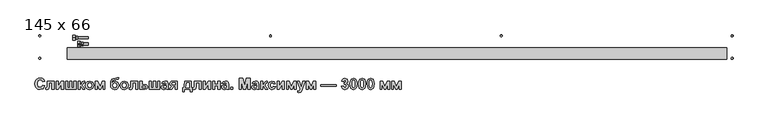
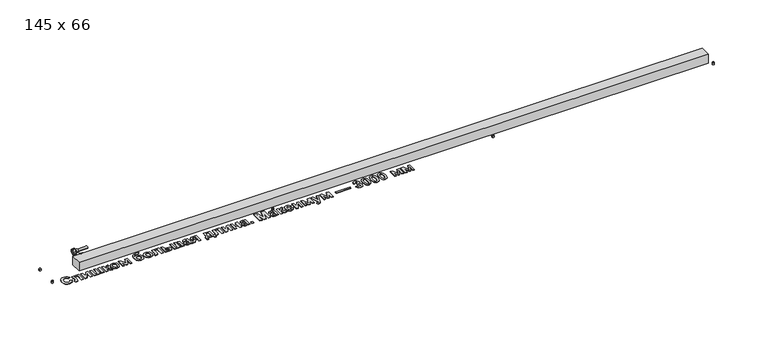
"""IFC4 building model written with IfcOpenShell, lengths in millimetres: proxy geometry, Mohlenhof_Внутрипольный конвектор_QSKM : 145 x 66."""

import ifcopenshell
import ifcopenshell.guid

model = None  # the IFC model being written
_history = None  # IfcOwnerHistory: only IFC2X3 demands one
_inside = {}  # id of a spatial element -> (the spatial element, [elements in it])
_under = {}  # id of a project, library or spatial element -> (it, [spatial elements below it])
_declared = {}  # id of a project -> (the project, [libraries it declares])
_typed = {}  # id of a type object -> (the type object, [elements of that type])
_made_of = {}  # id of a material, layer set ... -> (it, [elements and type objects made of it])


def new_model(schema):
    """Start an empty IFC model of exactly this schema.

    Asked for "IFC4X3", IfcOpenShell would pick the latest addendum, in which some entities
    have other attributes; the version numbers below select the first issue.
    IFC2X3 requires an IfcOwnerHistory on every rooted entity: one is made here for all.
    """
    global model, _history
    if schema == "IFC4X3":
        model = ifcopenshell.file(schema_version=(4, 3, 0, 0))
    else:
        model = ifcopenshell.file(schema=schema)
    _inside.clear()
    _under.clear()
    _declared.clear()
    _typed.clear()
    _made_of.clear()
    _history = None
    if model.schema == "IFC2X3":
        org = make("IfcOrganization", Name="unknown")
        user = make(
            "IfcPersonAndOrganization",
            ThePerson=make("IfcPerson", FamilyName="unknown"),
            TheOrganization=org,
        )
        app = make(
            "IfcApplication",
            ApplicationDeveloper=org,
            Version="unknown",
            ApplicationFullName="unknown",
            ApplicationIdentifier="unknown",
        )
        _history = make(
            "IfcOwnerHistory",
            OwningUser=user,
            OwningApplication=app,
            ChangeAction="ADDED",
            CreationDate=0,
        )
    return model


def make(cls, **values):
    """One entity of the class cls with the attributes given. An attribute that is None is left unset."""
    return model.create_entity(
        cls, **{name: value for name, value in values.items() if value is not None}
    )


def rooted(cls, **values):
    """An entity with a GlobalId (a new one), such as an element, a storey or a relation."""
    return make(cls, GlobalId=ifcopenshell.guid.new(), OwnerHistory=_history, **values)


def si_unit(unit_type, name, prefix=None):
    """IfcSIUnit, for example si_unit("LENGTHUNIT", "METRE", prefix="MILLI")."""
    return make("IfcSIUnit", UnitType=unit_type, Prefix=prefix, Name=name)


def assignment(units):
    """IfcUnitAssignment: the units of a project."""
    return None if units is None else make("IfcUnitAssignment", Units=units)


def point(xyz):
    """IfcCartesianPoint."""
    return None if xyz is None else make("IfcCartesianPoint", Coordinates=xyz)


def direction(xyz):
    """IfcDirection."""
    return None if xyz is None else make("IfcDirection", DirectionRatios=xyz)


def frame(location, z_axis=None, x_axis=None):
    """IfcAxis2Placement3D, a coordinate frame: its origin and axes. An axis left out is left unset."""
    return make(
        "IfcAxis2Placement3D",
        Location=point(location),
        Axis=direction(z_axis),
        RefDirection=direction(x_axis),
    )


def frame_2d(location, x_axis=None):
    """IfcAxis2Placement2D, a coordinate frame in the plane: its origin and x axis."""
    return make(
        "IfcAxis2Placement2D", Location=point(location), RefDirection=direction(x_axis)
    )


def origin():
    """The frame at (0, 0, 0) with its axes left unset."""
    return frame((0.0, 0.0, 0.0))


def origin_with_axes():
    """The frame at (0, 0, 0) with the z axis (0, 0, 1) and the x axis (1, 0, 0) written out."""
    return frame((0.0, 0.0, 0.0), z_axis=(0.0, 0.0, 1.0), x_axis=(1.0, 0.0, 0.0))


def place(relative_to, where):
    """IfcLocalPlacement: puts the frame where relative to a parent placement (None: the world)."""
    return make(
        "IfcLocalPlacement", PlacementRelTo=relative_to, RelativePlacement=where
    )


def context(
    kind, dimensions, precision=None, world=None, true_north=None, identifier=None
):
    """IfcGeometricRepresentationContext, for example the 3D "Model" context."""
    return make(
        "IfcGeometricRepresentationContext",
        ContextIdentifier=identifier,
        ContextType=kind,
        CoordinateSpaceDimension=dimensions,
        Precision=precision,
        WorldCoordinateSystem=world,
        TrueNorth=true_north,
    )


def project(units=None, contexts=None):
    """IfcProject with its units and contexts."""
    return rooted(
        "IfcProject",
        Name="project",
        RepresentationContexts=contexts,
        UnitsInContext=assignment(units),
    )


def spatial(cls, under=None, at=None, **own):
    """A site, building, storey or space (cls), placed at a placement, below another one or the project."""
    s = rooted(cls, ObjectPlacement=at, **own)
    if under is not None:
        _under.setdefault(under.id(), (under, []))[1].append(s)
    return s


def polyline(points):
    """IfcPolyline through the points."""
    return make("IfcPolyline", Points=[point(p) for p in points])


def circle_curve(where, radius):
    """IfcCircle in the frame where."""
    return make("IfcCircle", Position=where, Radius=radius)


def trimmed(basis, trim1, trim2, sense, master):
    """IfcTrimmedCurve: the piece of a basis curve between two trims."""
    return make(
        "IfcTrimmedCurve",
        BasisCurve=basis,
        Trim1=trim1,
        Trim2=trim2,
        SenseAgreement=sense,
        MasterRepresentation=master,
    )


def segment(curve, same_sense, transition):
    """IfcCompositeCurveSegment."""
    return make(
        "IfcCompositeCurveSegment",
        Transition=transition,
        SameSense=same_sense,
        ParentCurve=curve,
    )


def composite_curve(segments, self_intersect=None):
    """IfcCompositeCurve: segments joined end to end."""
    return make("IfcCompositeCurve", Segments=segments, SelfIntersect=self_intersect)


def outline(outer, holes=None, kind="AREA"):
    """IfcArbitraryClosedProfileDef: a profile drawn as a closed curve; with holes, ...WithVoids."""
    if holes is None:
        return make("IfcArbitraryClosedProfileDef", ProfileType=kind, OuterCurve=outer)
    return make(
        "IfcArbitraryProfileDefWithVoids",
        ProfileType=kind,
        OuterCurve=outer,
        InnerCurves=holes,
    )


def extrude(swept, where, along, depth):
    """IfcExtrudedAreaSolid: the profile swept, set in the frame where, extruded along a direction by depth."""
    return make(
        "IfcExtrudedAreaSolid",
        SweptArea=swept,
        Position=where,
        ExtrudedDirection=direction(along),
        Depth=depth,
    )


def shape(context_of_items, identifier, shape_type, items):
    """IfcShapeRepresentation: the items that make up one representation, for example the "Body"."""
    return make(
        "IfcShapeRepresentation",
        ContextOfItems=context_of_items,
        RepresentationIdentifier=identifier,
        RepresentationType=shape_type,
        Items=items,
    )


def source(mapping_origin, context_of_items, identifier, shape_type, items):
    """IfcRepresentationMap: a shape defined once, which mapped items show again and again."""
    return make(
        "IfcRepresentationMap",
        MappingOrigin=mapping_origin,
        MappedRepresentation=shape(context_of_items, identifier, shape_type, items),
    )


def transform(
    local_origin,
    x_axis=None,
    y_axis=None,
    z_axis=None,
    scale=None,
    scale2=None,
    scale3=None,
    uniform=True,
):
    """IfcCartesianTransformationOperator3D, or its non-uniform kind. x_axis, y_axis, z_axis: its Axis1, 2, 3."""
    if uniform:
        return make(
            "IfcCartesianTransformationOperator3D",
            Axis1=direction(x_axis),
            Axis2=direction(y_axis),
            LocalOrigin=point(local_origin),
            Scale=scale,
            Axis3=direction(z_axis),
        )
    return make(
        "IfcCartesianTransformationOperator3DnonUniform",
        Axis1=direction(x_axis),
        Axis2=direction(y_axis),
        LocalOrigin=point(local_origin),
        Scale=scale,
        Axis3=direction(z_axis),
        Scale2=scale2,
        Scale3=scale3,
    )


def mapped(mapping_source, mapping_target):
    """IfcMappedItem: shows the shape of a source again, moved by a transform."""
    return make(
        "IfcMappedItem", MappingSource=mapping_source, MappingTarget=mapping_target
    )


def made_of(thing, what):
    """Note that an element or type object is made of a material, layer set ...; save() writes the relation."""
    if what is not None:
        _made_of.setdefault(what.id(), (what, []))[1].append(thing)
    return thing


def element(
    cls,
    number,
    at=None,
    inside=None,
    cuts=None,
    type_object=None,
    material=None,
    context=None,
    identifier="Body",
    shape_type=None,
    held_by="IfcProductDefinitionShape",
    body=None,
    shapes=None,
    **own,
):
    """One element of the class cls, such as IfcWall. Its Tag is "e" and its number.

    at: its placement. inside: the storey or other place that contains it. cuts: it is an
    opening in that element (IfcRelVoidsElement). A single representation is given by context,
    identifier, shape_type and body (its items); several are given by shapes. held_by: the class
    of the entity that holds the representations. save() writes the other relations.
    """
    e = rooted(cls, Tag="e%d" % number, ObjectPlacement=at, **own)
    if body is not None:
        shapes = [shape(context, identifier, shape_type, body)]
    if shapes is not None:
        e.Representation = make(held_by, Representations=shapes)
    if inside is not None:
        _inside.setdefault(inside.id(), (inside, []))[1].append(e)
    if cuts is not None:
        rooted(
            "IfcRelVoidsElement", RelatingBuildingElement=cuts, RelatedOpeningElement=e
        )
    if type_object is not None:
        _typed.setdefault(type_object.id(), (type_object, []))[1].append(e)
    return made_of(e, material)


def aggregate(whole, parts):
    """IfcRelAggregates: a whole, such as a stair, and the parts it consists of."""
    return rooted("IfcRelAggregates", RelatingObject=whole, RelatedObjects=parts)


def save(model, path):
    """Write the relations noted so far, then the file.

    IfcRelAggregates (storeys below a building ...), IfcRelContainedInSpatialStructure (elements
    in a storey), IfcRelDefinesByType, IfcRelAssociatesMaterial and IfcRelDeclares: one each for
    every whole, place, type object, material and project.
    """
    for whole, parts in _under.values():
        aggregate(whole, parts)
    for where, things in _inside.values():
        rooted(
            "IfcRelContainedInSpatialStructure",
            RelatedElements=things,
            RelatingStructure=where,
        )
    for kind, things in _typed.values():
        rooted("IfcRelDefinesByType", RelatedObjects=things, RelatingType=kind)
    for what, things in _made_of.values():
        rooted("IfcRelAssociatesMaterial", RelatedObjects=things, RelatingMaterial=what)
    for by, libraries in _declared.values():
        rooted("IfcRelDeclares", RelatingContext=by, RelatedDefinitions=libraries)
    model.write(path)


def plane_surface(at):
    """IfcPlane: the flat surface through the origin of the frame at, square to its z axis."""
    return make("IfcPlane", Position=at)


def cylinder_surface(at, radius):
    """IfcCylindricalSurface: all points at the distance radius from the z axis of the frame at."""
    return make("IfcCylindricalSurface", Position=at, Radius=radius)


def revolved_surface(curve, axis_point, axis_direction):
    """IfcSurfaceOfRevolution: the curve turned about the line through axis_point along axis_direction."""
    return make(
        "IfcSurfaceOfRevolution",
        SweptCurve=make("IfcArbitraryOpenProfileDef", ProfileType="CURVE", Curve=curve),
        AxisPosition=make("IfcAxis1Placement", Location=point(axis_point), Axis=direction(axis_direction)),
    )


def advanced_brep(points, edges, surfaces, faces):
    """IfcAdvancedBrep: a solid bounded by faces that lie on surfaces and meet in shared edges.

    An edge is (start, end): straight between two places in points (the first is 0);
    or (start, end, curve); or (start, end, curve, False) where it runs against its curve.
    A face is (place in surfaces, loops), or (place, loops, False) where it looks against
    its surface's normal. A loop lists edges by number (the first is 1), with a minus sign
    where the edge is run from its end to its start. The first loop is the outer one.
    """
    corners = [point(p) for p in points]
    vertices = [make("IfcVertexPoint", VertexGeometry=c) for c in corners]
    made = []
    for start, end, *more in edges:
        made.append(
            make(
                "IfcEdgeCurve",
                EdgeStart=vertices[start],
                EdgeEnd=vertices[end],
                EdgeGeometry=more[0] if more else make("IfcPolyline", Points=[corners[start], corners[end]]),
                SameSense=more[1] if len(more) > 1 else True,
            )
        )
    hull = []
    for where, loops, *sense in faces:
        bounds = []
        for j, loop in enumerate(loops):
            ring = [make("IfcOrientedEdge", EdgeElement=made[abs(k) - 1], Orientation=k > 0) for k in loop]
            bounds.append(
                make(
                    "IfcFaceOuterBound" if j == 0 else "IfcFaceBound",
                    Bound=make("IfcEdgeLoop", EdgeList=ring),
                    Orientation=True,
                )
            )
        hull.append(make("IfcAdvancedFace", Bounds=bounds, FaceSurface=surfaces[where], SameSense=sense[0] if sense else True))
    return make("IfcAdvancedBrep", Outer=make("IfcClosedShell", CfsFaces=hull))


def proxy_145_x_66_dd4702fc(model_context):
    return source(origin(), model_context, "Body", "SolidModel", [
        extrude(outline(composite_curve([segment(trimmed(circle_curve(frame_2d((-525.0, -223.5)), 4.5), [point((-529.5, -223.5))], [point((-520.5, -223.5))], False, "CARTESIAN"), True, "CONTINUOUS"), segment(trimmed(circle_curve(frame_2d((-525.0, -223.5)), 4.5), [point((-520.5, -223.5))], [point((-529.5, -223.5))], False, "CARTESIAN"), True, "CONTINUOUS")], self_intersect=False)), frame((0.0, 0.0, -79.0), z_axis=(0.0, 0.0, 1.0), x_axis=(1.0, 0.0, 0.0)), (0.0, 0.0, 1.0), 7.0),
        extrude(outline(composite_curve([segment(trimmed(circle_curve(frame_2d((-525.0, -223.5)), 4.0), [point((-529.0, -223.5))], [point((-521.0, -223.5))], False, "CARTESIAN"), True, "CONTINUOUS"), segment(trimmed(circle_curve(frame_2d((-525.0, -223.5)), 4.0), [point((-521.0, -223.5))], [point((-529.0, -223.5))], False, "CARTESIAN"), True, "CONTINUOUS")], self_intersect=False)), frame((0.0, 0.0, -72.0), z_axis=(0.0, 0.0, 1.0), x_axis=(1.0, 0.0, 0.0)), (0.0, 0.0, 1.0), 1.5),
        extrude(outline(composite_curve([segment(trimmed(circle_curve(frame_2d((525.0, -223.5)), 4.5), [point((520.5, -223.5))], [point((529.5, -223.5))], False, "CARTESIAN"), True, "CONTINUOUS"), segment(trimmed(circle_curve(frame_2d((525.0, -223.5)), 4.5), [point((529.5, -223.5))], [point((520.5, -223.5))], False, "CARTESIAN"), True, "CONTINUOUS")], self_intersect=False)), frame((0.0, 0.0, -79.0), z_axis=(0.0, 0.0, 1.0), x_axis=(1.0, 0.0, 0.0)), (0.0, 0.0, 1.0), 7.0),
        extrude(outline(composite_curve([segment(trimmed(circle_curve(frame_2d((525.0, -223.5)), 4.0), [point((521.0, -223.5))], [point((529.0, -223.5))], False, "CARTESIAN"), True, "CONTINUOUS"), segment(trimmed(circle_curve(frame_2d((525.0, -223.5)), 4.0), [point((529.0, -223.5))], [point((521.0, -223.5))], False, "CARTESIAN"), True, "CONTINUOUS")], self_intersect=False)), frame((0.0, 0.0, -72.0), z_axis=(0.0, 0.0, 1.0), x_axis=(1.0, 0.0, 0.0)), (0.0, 0.0, 1.0), 1.5),
        extrude(outline(composite_curve([segment(trimmed(circle_curve(frame_2d((-525.0, -121.5)), 4.5), [point((-529.5, -121.5))], [point((-520.5, -121.5))], False, "CARTESIAN"), True, "CONTINUOUS"), segment(trimmed(circle_curve(frame_2d((-525.0, -121.5)), 4.5), [point((-520.5, -121.5))], [point((-529.5, -121.5))], False, "CARTESIAN"), True, "CONTINUOUS")], self_intersect=False)), frame((0.0, 0.0, -79.0), z_axis=(0.0, 0.0, 1.0), x_axis=(1.0, 0.0, 0.0)), (0.0, 0.0, 1.0), 7.0),
        extrude(outline(composite_curve([segment(trimmed(circle_curve(frame_2d((-525.0, -121.5)), 4.0), [point((-529.0, -121.5))], [point((-521.0, -121.5))], False, "CARTESIAN"), True, "CONTINUOUS"), segment(trimmed(circle_curve(frame_2d((-525.0, -121.5)), 4.0), [point((-521.0, -121.5))], [point((-529.0, -121.5))], False, "CARTESIAN"), True, "CONTINUOUS")], self_intersect=False)), frame((0.0, 0.0, -72.0), z_axis=(0.0, 0.0, 1.0), x_axis=(1.0, 0.0, 0.0)), (0.0, 0.0, 1.0), 1.5),
        extrude(outline(composite_curve([segment(trimmed(circle_curve(frame_2d((525.0, -121.5)), 4.5), [point((520.5, -121.5))], [point((529.5, -121.5))], False, "CARTESIAN"), True, "CONTINUOUS"), segment(trimmed(circle_curve(frame_2d((525.0, -121.5)), 4.5), [point((529.5, -121.5))], [point((520.5, -121.5))], False, "CARTESIAN"), True, "CONTINUOUS")], self_intersect=False)), frame((0.0, 0.0, -79.0), z_axis=(0.0, 0.0, 1.0), x_axis=(1.0, 0.0, 0.0)), (0.0, 0.0, 1.0), 7.0),
        extrude(outline(composite_curve([segment(trimmed(circle_curve(frame_2d((525.0, -121.5)), 4.0), [point((521.0, -121.5))], [point((529.0, -121.5))], False, "CARTESIAN"), True, "CONTINUOUS"), segment(trimmed(circle_curve(frame_2d((525.0, -121.5)), 4.0), [point((529.0, -121.5))], [point((521.0, -121.5))], False, "CARTESIAN"), True, "CONTINUOUS")], self_intersect=False)), frame((0.0, 0.0, -72.0), z_axis=(0.0, 0.0, 1.0), x_axis=(1.0, 0.0, 0.0)), (0.0, 0.0, 1.0), 1.5),
        extrude(outline(polyline([(-1561.9427049, -345.5664876), (-1552.2259487, -348.8054063), (-1559.8804246, -361.0082857), (-1573.4687009, -365.0), (-1582.7457991, -363.2951395), (-1590.2073317, -358.1805578), (-1595.1226439, -350.1085651), (-1596.7610813, -339.5314711), (-1595.1084103, -328.416666), (-1590.1503975, -320.0979587), (-1582.4975031, -314.9074649), (-1572.7601874, -313.1773003), (-1564.2327217, -314.6038163), (-1557.4765396, -318.8833642), (-1552.2259487, -328.5621643), (-1561.9427049, -330.1816237), (-1565.9723753, -324.2541493), (-1573.4307448, -322.0843268), (-1583.2676952, -326.025433), (-1587.0443251, -338.7850015), (-1583.3815635, -352.1202372), (-1573.8482617, -356.0929735), (-1566.4151962, -353.5562422), (-1561.9427049, -345.5664876)])), origin_with_axes(), (0.0, 0.0, 1.0), 2.0),
        extrude(outline(polyline([(-1541.6994629, -327.7524346), (-1509.3102756, -327.7524346), (-1509.3102756, -365.0), (-1519.0270317, -365.0), (-1519.0270317, -335.0400017), (-1531.9827067, -335.0400017), (-1531.9827067, -352.2720616), (-1533.4123856, -361.4953887), (-1536.5753922, -364.981022), (-1542.1549358, -365.8097297), (-1548.1773003, -365.2150844), (-1548.1773003, -358.3450342), (-1544.4196485, -358.5221625), (-1542.1233057, -357.1810478), (-1541.6994629, -349.7163522), (-1541.6994629, -327.7524346)])), origin_with_axes(), (0.0, 0.0, 1.0), 2.0),
        extrude(outline(polyline([(-1499.5935194, -327.7524346), (-1489.8767632, -327.7524346), (-1489.8767632, -350.6652542), (-1476.1113586, -327.7524346), (-1466.3946024, -327.7524346), (-1466.3946024, -365.0), (-1476.1113586, -365.0), (-1476.1113586, -342.0745284), (-1489.8767632, -365.0), (-1499.5935194, -365.0), (-1499.5935194, -327.7524346)])), origin_with_axes(), (0.0, 0.0, 1.0), 2.0),
        extrude(outline(polyline([(-1456.6778462, -327.7524346), (-1446.96109, -327.7524346), (-1446.96109, -357.7124329), (-1438.0540635, -357.7124329), (-1438.0540635, -327.7524346), (-1428.3373073, -327.7524346), (-1428.3373073, -357.7124329), (-1419.4302808, -357.7124329), (-1419.4302808, -327.7524346), (-1409.7135246, -327.7524346), (-1409.7135246, -365.0), (-1456.6778462, -365.0), (-1456.6778462, -327.7524346)])), origin_with_axes(), (0.0, 0.0, 1.0), 2.0),
        extrude(outline(polyline([(-1399.9967684, -327.7524346), (-1390.2800122, -327.7524346), (-1390.2800122, -343.1372986), (-1386.8829432, -341.6380335), (-1384.4727322, -336.3052044), (-1380.4240838, -329.2833298), (-1374.6547598, -327.7524346), (-1370.8464999, -327.9169109), (-1370.8085438, -334.2302721), (-1375.6669219, -334.9893936), (-1377.9695907, -339.6959474), (-1382.7900127, -346.211741), (-1375.0216685, -354.1951695), (-1369.2270405, -365.0), (-1380.1457392, -365.0), (-1384.7510767, -354.5747303), (-1387.2055698, -350.5134299), (-1390.2800122, -349.615136), (-1390.2800122, -365.0), (-1399.9967684, -365.0), (-1399.9967684, -327.7524346)])), origin_with_axes(), (0.0, 0.0, 1.0), 2.0),
        extrude(outline(polyline([(-1366.7978514, -345.8448322), (-1364.4002925, -336.3621385), (-1357.6124804, -329.3592419), (-1347.80716, -326.9427049), (-1334.0860375, -332.4210323), (-1328.7405564, -346.2750011), (-1334.1429716, -360.2618162), (-1347.7312478, -365.8097297), (-1357.4037219, -363.5007349), (-1364.4002925, -356.7255748), (-1366.7978514, -345.8448322)]), holes=[polyline([(-1357.0810952, -346.3762173), (-1354.3925397, -355.390786), (-1347.7565519, -358.5221625), (-1341.1332161, -355.390786), (-1338.4573126, -346.3003051), (-1341.1332161, -337.3616486), (-1347.7565519, -334.2302721), (-1354.3925397, -337.3616486), (-1357.0810952, -346.3762173)])]), origin_with_axes(), (0.0, 0.0, 1.0), 2.0),
        extrude(outline(polyline([(-1321.4529892, -327.7524346), (-1310.3318581, -327.7524346), (-1299.9951526, -353.7017405), (-1289.5572309, -327.7524346), (-1278.537316, -327.7524346), (-1278.537316, -365.0), (-1286.6346129, -365.0), (-1286.6346129, -340.4803731), (-1296.5031934, -365.0), (-1303.5883281, -365.0), (-1313.3556924, -340.4803731), (-1313.3556924, -365.0), (-1321.4529892, -365.0), (-1321.4529892, -327.7524346)])), origin_with_axes(), (0.0, 0.0, 1.0), 2.0),
        extrude(outline(polyline([(-1221.8562383, -312.3675706), (-1215.3784008, -312.3675706), (-1217.7822858, -319.0351885), (-1228.0304271, -321.2999012), (-1229.9914912, -321.2745971), (-1239.1642102, -322.2741072), (-1244.1364566, -326.1456273), (-1246.1481287, -335.4195625), (-1240.3281967, -329.6628906), (-1231.838687, -327.7524346), (-1219.0095324, -333.4711505), (-1213.7589414, -346.70517), (-1219.2182908, -360.179578), (-1225.5142554, -364.4021918), (-1233.4834504, -365.8097297), (-1244.1111525, -362.9820018), (-1250.6585761, -355.2452877), (-1252.6259662, -338.9874339), (-1251.3576006, -327.5278611), (-1247.5525037, -319.8196141), (-1240.5875632, -315.445176), (-1229.8396669, -313.98703), (-1224.7155962, -313.98703), (-1221.8562383, -312.3675706)]), holes=[polyline([(-1242.90921, -346.7684301), (-1240.1384163, -355.359156), (-1233.3442781, -358.5221625), (-1226.2464914, -355.2452877), (-1223.4756976, -346.7937342), (-1226.2844475, -338.2789205), (-1233.2304099, -335.0400017), (-1240.0814821, -338.2219864), (-1242.90921, -346.7684301)])]), origin_with_axes(), (0.0, 0.0, 1.0), 2.0),
        extrude(outline(polyline([(-1208.9005633, -345.8448322), (-1206.5030044, -336.3621385), (-1199.7151923, -329.3592419), (-1189.9098719, -326.9427049), (-1176.1887494, -332.4210323), (-1170.8432683, -346.2750011), (-1176.2456835, -360.2618162), (-1189.8339597, -365.8097297), (-1199.5064338, -363.5007349), (-1206.5030044, -356.7255748), (-1208.9005633, -345.8448322)]), holes=[polyline([(-1199.1838072, -346.3762173), (-1196.4952516, -355.390786), (-1189.8592638, -358.5221625), (-1183.235928, -355.390786), (-1180.5600245, -346.3003051), (-1183.235928, -337.3616486), (-1189.8592638, -334.2302721), (-1196.4952516, -337.3616486), (-1199.1838072, -346.3762173)])]), origin_with_axes(), (0.0, 0.0, 1.0), 2.0),
        extrude(outline(polyline([(-1161.1265121, -327.7524346), (-1128.7373248, -327.7524346), (-1128.7373248, -365.0), (-1138.454081, -365.0), (-1138.454081, -335.0400017), (-1151.4097559, -335.0400017), (-1151.4097559, -352.2720616), (-1152.8394349, -361.4953887), (-1156.0024414, -364.981022), (-1161.581985, -365.8097297), (-1167.6043495, -365.2150844), (-1167.6043495, -358.3450342), (-1163.8466977, -358.5221625), (-1161.550355, -357.1810478), (-1161.1265121, -349.7163522), (-1161.1265121, -327.7524346)])), origin_with_axes(), (0.0, 0.0, 1.0), 2.0),
        extrude(outline(polyline([(-1119.0205686, -327.7524346), (-1109.3038124, -327.7524346), (-1109.3038124, -343.1372986), (-1099.48584, -343.1372986), (-1090.6041175, -343.9849843), (-1085.4484168, -347.6287679), (-1083.3924626, -354.1192574), (-1087.0615502, -362.2734883), (-1098.056161, -365.0), (-1119.0205686, -365.0), (-1119.0205686, -327.7524346)]), holes=[polyline([(-1109.3038124, -358.5221625), (-1099.953965, -358.5221625), (-1094.3427913, -357.2000258), (-1093.1092188, -354.0686493), (-1095.2347592, -350.570364), (-1102.7753668, -349.615136), (-1109.3038124, -349.615136), (-1109.3038124, -358.5221625)])]), origin_with_axes(), (0.0, 0.0, 1.0), 2.0),
        extrude(outline(polyline([(-1076.1048954, -327.7524346), (-1066.3881392, -327.7524346), (-1066.3881392, -357.7124329), (-1057.4811127, -357.7124329), (-1057.4811127, -327.7524346), (-1047.7643565, -327.7524346), (-1047.7643565, -357.7124329), (-1038.85733, -357.7124329), (-1038.85733, -327.7524346), (-1029.1405738, -327.7524346), (-1029.1405738, -365.0), (-1076.1048954, -365.0), (-1076.1048954, -327.7524346)])), origin_with_axes(), (0.0, 0.0, 1.0), 2.0),
        extrude(outline(polyline([(-1011.3265208, -339.0886502), (-1020.2335473, -337.4691908), (-1015.3435392, -329.5237183), (-1005.0384638, -326.9427049), (-995.7898325, -328.5052302), (-991.5134476, -332.4653144), (-990.2735491, -341.2774507), (-990.2735491, -352.7654906), (-989.761142, -360.0024496), (-987.84436, -365.0), (-997.5611162, -365.0), (-998.4720621, -361.9129056), (-1004.0136496, -364.525549), (-1009.9221459, -365.8097297), (-1018.6583701, -362.6910052), (-1021.8530067, -354.8151188), (-1020.4296537, -349.1976192), (-1016.4379394, -345.4146633), (-1009.0365041, -343.1246465), (-999.9903053, -340.7081095), (-1001.1985738, -335.4828227), (-1005.7469772, -334.2302721), (-1009.2768926, -335.3056943), (-1011.3265208, -339.0886502)]), holes=[polyline([(-999.9903053, -347.9956767), (-1005.4686326, -349.3431175), (-1010.3776188, -350.8803387), (-1012.1362505, -353.9800851), (-1010.7255496, -357.1747217), (-1007.1387001, -358.5221625), (-1002.4954065, -356.9533113), (-1000.344562, -354.0433452), (-999.9903053, -349.7543083), (-999.9903053, -347.9956767)])]), origin_with_axes(), (0.0, 0.0, 1.0), 2.0),
        extrude(outline(polyline([(-948.9773353, -327.7524346), (-948.9773353, -365.0), (-958.6940915, -365.0), (-958.6940915, -350.4248657), (-964.248331, -351.2029653), (-967.5378578, -354.4861662), (-974.5850365, -365.0), (-986.2249007, -365.0), (-979.152418, -354.8151188), (-973.876523, -349.6910482), (-980.4619027, -346.4331514), (-982.9859819, -338.7596975), (-981.2842844, -332.3451201), (-976.761185, -328.7203146), (-968.3602395, -327.7524346), (-948.9773353, -327.7524346)]), holes=[polyline([(-958.6940915, -334.2302721), (-965.9816586, -334.2302721), (-971.6371143, -335.3499764), (-973.2692257, -339.0759981), (-971.4220299, -342.8083459), (-965.3617093, -343.9470283), (-958.6940915, -343.9470283), (-958.6940915, -334.2302721)])]), origin_with_axes(), (0.0, 0.0, 1.0), 2.0),
        extrude(outline(polyline([(-889.0573388, -365.0), (-917.3978776, -365.0), (-917.3978776, -374.7167562), (-924.6854448, -374.7167562), (-924.6854448, -357.7124329), (-920.6367964, -357.7124329), (-916.7842544, -348.7105162), (-914.9686886, -327.7524346), (-885.81842, -327.7524346), (-885.81842, -357.7124329), (-881.7697716, -357.7124329), (-881.7697716, -374.7167562), (-889.0573388, -374.7167562), (-889.0573388, -365.0)]), holes=[polyline([(-895.5351762, -357.7124329), (-895.5351762, -335.0400017), (-906.8713918, -335.0400017), (-910.9200402, -357.7124329), (-895.5351762, -357.7124329)])]), origin_with_axes(), (0.0, 0.0, 1.0), 2.0),
        extrude(outline(polyline([(-872.8627451, -327.7524346), (-840.4735578, -327.7524346), (-840.4735578, -365.0), (-850.190314, -365.0), (-850.190314, -335.0400017), (-863.1459889, -335.0400017), (-863.1459889, -352.2720616), (-864.5756679, -361.4953887), (-867.7386745, -364.981022), (-873.3182181, -365.8097297), (-879.3405826, -365.2150844), (-879.3405826, -358.3450342), (-875.5829308, -358.5221625), (-873.286588, -357.1810478), (-872.8627451, -349.7163522), (-872.8627451, -327.7524346)])), origin_with_axes(), (0.0, 0.0, 1.0), 2.0),
        extrude(outline(polyline([(-830.7568016, -327.7524346), (-821.0400454, -327.7524346), (-821.0400454, -350.6652542), (-807.2746408, -327.7524346), (-797.5578846, -327.7524346), (-797.5578846, -365.0), (-807.2746408, -365.0), (-807.2746408, -342.0745284), (-821.0400454, -365.0), (-830.7568016, -365.0), (-830.7568016, -327.7524346)])), origin_with_axes(), (0.0, 0.0, 1.0), 2.0),
        extrude(outline(polyline([(-787.8411284, -327.7524346), (-778.1243723, -327.7524346), (-778.1243723, -341.5178392), (-764.3589677, -341.5178392), (-764.3589677, -327.7524346), (-754.6422115, -327.7524346), (-754.6422115, -365.0), (-764.3589677, -365.0), (-764.3589677, -348.8054063), (-778.1243723, -348.8054063), (-778.1243723, -365.0), (-787.8411284, -365.0), (-787.8411284, -327.7524346)])), origin_with_axes(), (0.0, 0.0, 1.0), 2.0),
        extrude(outline(polyline([(-736.8281584, -339.0886502), (-745.735185, -337.4691908), (-740.8451768, -329.5237183), (-730.5401014, -326.9427049), (-721.2914702, -328.5052302), (-717.0150853, -332.4653144), (-715.7751867, -341.2774507), (-715.7751867, -352.7654906), (-715.2627796, -360.0024496), (-713.3459977, -365.0), (-723.0627538, -365.0), (-723.9736997, -361.9129056), (-729.5152873, -364.525549), (-735.4237835, -365.8097297), (-744.1600077, -362.6910052), (-747.3546443, -354.8151188), (-745.9312914, -349.1976192), (-741.9395771, -345.4146633), (-734.5381417, -343.1246465), (-725.4919429, -340.7081095), (-726.7002114, -335.4828227), (-731.2486149, -334.2302721), (-734.7785302, -335.3056943), (-736.8281584, -339.0886502)]), holes=[polyline([(-725.4919429, -347.9956767), (-730.9702703, -349.3431175), (-735.8792565, -350.8803387), (-737.6378881, -353.9800851), (-736.2271872, -357.1747217), (-732.6403377, -358.5221625), (-727.9970441, -356.9533113), (-725.8461996, -354.0433452), (-725.4919429, -349.7543083), (-725.4919429, -347.9956767)])]), origin_with_axes(), (0.0, 0.0, 1.0), 2.0),
        extrude(outline(polyline([(-706.0584305, -365.0), (-706.0584305, -355.2832438), (-696.3416743, -355.2832438), (-696.3416743, -365.0), (-706.0584305, -365.0)])), origin_with_axes(), (0.0, 0.0, 1.0), 2.0),
        extrude(outline(polyline([(-667.1914058, -365.0), (-667.1914058, -313.98703), (-650.5413392, -313.98703), (-642.4946504, -348.7801023), (-634.4479617, -313.98703), (-617.7978951, -313.98703), (-617.7978951, -365.0), (-627.5146513, -365.0), (-627.9195162, -324.8424686), (-636.8012386, -365.0), (-648.1754102, -365.0), (-657.0697847, -324.8424686), (-657.4746496, -365.0), (-667.1914058, -365.0)])), origin_with_axes(), (0.0, 0.0, 1.0), 2.0),
        extrude(outline(polyline([(-599.9838421, -339.0886502), (-608.8908686, -337.4691908), (-604.0008605, -329.5237183), (-593.695785, -326.9427049), (-584.4471538, -328.5052302), (-580.1707689, -332.4653144), (-578.9308704, -341.2774507), (-578.9308704, -352.7654906), (-578.4184633, -360.0024496), (-576.5016813, -365.0), (-586.2184375, -365.0), (-587.1293834, -361.9129056), (-592.6709709, -364.525549), (-598.5794672, -365.8097297), (-607.3156913, -362.6910052), (-610.510328, -354.8151188), (-609.086975, -349.1976192), (-605.0952607, -345.4146633), (-597.6938253, -343.1246465), (-588.6476266, -340.7081095), (-589.8558951, -335.4828227), (-594.4042985, -334.2302721), (-597.9342138, -335.3056943), (-599.9838421, -339.0886502)]), holes=[polyline([(-588.6476266, -347.9956767), (-594.1259539, -349.3431175), (-599.0349401, -350.8803387), (-600.7935718, -353.9800851), (-599.3828709, -357.1747217), (-595.7960214, -358.5221625), (-591.1527278, -356.9533113), (-589.0018833, -354.0433452), (-588.6476266, -349.7543083), (-588.6476266, -347.9956767)])]), origin_with_axes(), (0.0, 0.0, 1.0), 2.0),
        extrude(outline(polyline([(-569.2141142, -327.7524346), (-559.497358, -327.7524346), (-559.497358, -343.1372986), (-556.1002889, -341.6380335), (-553.6900779, -336.3052044), (-549.6414295, -329.2833298), (-543.8721055, -327.7524346), (-540.0638456, -327.9169109), (-540.0258895, -334.2302721), (-544.8842676, -334.9893936), (-547.1869364, -339.6959474), (-552.0073584, -346.211741), (-544.2390143, -354.1951695), (-538.4443862, -365.0), (-549.3630849, -365.0), (-553.9684225, -354.5747303), (-556.4229156, -350.5134299), (-559.497358, -349.615136), (-559.497358, -365.0), (-569.2141142, -365.0), (-569.2141142, -327.7524346)])), origin_with_axes(), (0.0, 0.0, 1.0), 2.0),
        extrude(outline(polyline([(-502.8162802, -338.2789205), (-512.5330364, -339.8983798), (-514.6016427, -335.653625), (-518.7957894, -334.2302721), (-524.2614648, -336.8998496), (-526.298441, -345.8195281), (-524.1792266, -355.6501526), (-518.4921408, -358.5221625), (-514.1208657, -356.8837251), (-511.7233067, -351.2345954), (-502.0065505, -352.8540548), (-507.6050722, -362.5391809), (-518.7072252, -365.8097297), (-531.3149694, -360.660355), (-536.0151972, -346.4141734), (-531.3465995, -332.0731016), (-518.7072252, -326.9427049), (-508.3452157, -329.7451287), (-502.8162802, -338.2789205)])), origin_with_axes(), (0.0, 0.0, 1.0), 2.0),
        extrude(outline(polyline([(-494.7189834, -327.7524346), (-485.0022272, -327.7524346), (-485.0022272, -350.6652542), (-471.2368226, -327.7524346), (-461.5200664, -327.7524346), (-461.5200664, -365.0), (-471.2368226, -365.0), (-471.2368226, -342.0745284), (-485.0022272, -365.0), (-494.7189834, -365.0), (-494.7189834, -327.7524346)])), origin_with_axes(), (0.0, 0.0, 1.0), 2.0),
        extrude(outline(polyline([(-451.8033102, -327.7524346), (-440.6821791, -327.7524346), (-430.3454736, -353.7017405), (-419.9075519, -327.7524346), (-408.887637, -327.7524346), (-408.887637, -365.0), (-416.9849339, -365.0), (-416.9849339, -340.4803731), (-426.8535144, -365.0), (-433.9386491, -365.0), (-443.7060134, -340.4803731), (-443.7060134, -365.0), (-451.8033102, -365.0), (-451.8033102, -327.7524346)])), origin_with_axes(), (0.0, 0.0, 1.0), 2.0),
        extrude(outline(polyline([(-404.0292589, -327.7524346), (-394.3125027, -327.7524346), (-385.8103411, -354.1192574), (-377.3081794, -327.7524346), (-367.5914232, -327.7524346), (-380.1928414, -363.4438008), (-382.5334663, -370.0734625), (-384.8424611, -374.7926683), (-387.3665403, -377.4369418), (-390.8774776, -379.0121191), (-395.5777054, -379.5751343), (-400.7903402, -379.0184451), (-401.6000699, -371.8194422), (-397.7412019, -372.2875671), (-393.0536261, -370.2316129), (-390.7193273, -365.0), (-404.0292589, -327.7524346)])), origin_with_axes(), (0.0, 0.0, 1.0), 2.0),
        extrude(outline(polyline([(-361.9233154, -327.7524346), (-350.8021843, -327.7524346), (-340.4654789, -353.7017405), (-330.0275572, -327.7524346), (-319.0076423, -327.7524346), (-319.0076423, -365.0), (-327.1049391, -365.0), (-327.1049391, -340.4803731), (-336.9735196, -365.0), (-344.0586543, -365.0), (-353.8260186, -340.4803731), (-353.8260186, -365.0), (-361.9233154, -365.0), (-361.9233154, -327.7524346)])), origin_with_axes(), (0.0, 0.0, 1.0), 2.0),
        extrude(outline(polyline([(-295.5254815, -350.4248657), (-295.5254815, -343.1372986), (-225.0789991, -343.1372986), (-225.0789991, -350.4248657), (-295.5254815, -350.4248657)])), origin_with_axes(), (0.0, 0.0, 1.0), 2.0),
        extrude(outline(polyline([(-202.406568, -350.7411664), (-192.6898118, -349.615136), (-190.5010113, -355.0302033), (-186.1866703, -356.9027032), (-181.5939847, -354.7581847), (-179.7341369, -348.9825347), (-181.4358344, -343.5295114), (-185.5920251, -341.5178392), (-189.4508931, -342.2390047), (-188.6032073, -334.2302721), (-183.8144154, -332.6361168), (-182.1633259, -328.1319954), (-183.3968985, -324.3174095), (-186.6800993, -322.8940565), (-190.1404285, -324.5451459), (-191.8800821, -329.371894), (-201.5968383, -327.9169109), (-198.9209348, -320.1928489), (-193.9233844, -315.6444454), (-186.7433594, -313.98703), (-175.8373128, -318.5797155), (-172.4465697, -327.0818772), (-174.2652985, -333.1200568), (-179.7214849, -337.7981435), (-172.6616542, -341.9669861), (-170.0173807, -349.7922644), (-174.7049564, -361.1221539), (-186.3764507, -365.8097297), (-197.3520835, -361.640887), (-202.406568, -350.7411664)])), origin_with_axes(), (0.0, 0.0, 1.0), 2.0),
        extrude(outline(polyline([(-147.3449496, -313.98703), (-136.0213861, -319.2502729), (-132.3681135, -327.5278611), (-131.1503559, -339.9110319), (-132.3744395, -352.2942026), (-136.0466901, -360.6223989), (-147.3449496, -365.8097297), (-153.9160957, -364.3863767), (-159.079704, -360.1163179), (-163.5395432, -339.8098157), (-162.3154597, -327.483579), (-158.6432091, -319.1743608), (-147.3449496, -313.98703)]), holes=[polyline([(-147.3449496, -322.8940565), (-150.5838683, -323.9631527), (-152.7853209, -327.8030427), (-153.822787, -339.9110319), (-152.8991891, -351.6078302), (-150.5648903, -355.846259), (-147.3449496, -356.9027032), (-144.1060309, -355.833607), (-141.9045783, -351.993717), (-140.8671121, -339.9110319), (-141.79071, -328.2205596), (-144.1250089, -323.9631527), (-147.3449496, -322.8940565)])]), origin_with_axes(), (0.0, 0.0, 1.0), 2.0),
        extrude(outline(polyline([(-108.4779248, -313.98703), (-97.1543613, -319.2502729), (-93.5010887, -327.5278611), (-92.2833312, -339.9110319), (-93.5074147, -352.2942026), (-97.1796653, -360.6223989), (-108.4779248, -365.8097297), (-115.049071, -364.3863767), (-120.2126792, -360.1163179), (-124.6725185, -339.8098157), (-123.4484349, -327.483579), (-119.7761843, -319.1743608), (-108.4779248, -313.98703)]), holes=[polyline([(-108.4779248, -322.8940565), (-111.7168436, -323.9631527), (-113.9182961, -327.8030427), (-114.9557623, -339.9110319), (-114.0321644, -351.6078302), (-111.6978655, -355.846259), (-108.4779248, -356.9027032), (-105.2390061, -355.833607), (-103.0375535, -351.993717), (-102.0000874, -339.9110319), (-102.9236853, -328.2205596), (-105.2579841, -323.9631527), (-108.4779248, -322.8940565)])]), origin_with_axes(), (0.0, 0.0, 1.0), 2.0),
        extrude(outline(polyline([(-69.6109001, -313.98703), (-58.2873365, -319.2502729), (-54.6340639, -327.5278611), (-53.4163064, -339.9110319), (-54.64039, -352.2942026), (-58.3126406, -360.6223989), (-69.6109001, -365.8097297), (-76.1820462, -364.3863767), (-81.3456544, -360.1163179), (-85.8054937, -339.8098157), (-84.5814102, -327.483579), (-80.9091595, -319.1743608), (-69.6109001, -313.98703)]), holes=[polyline([(-69.6109001, -322.8940565), (-72.8498188, -323.9631527), (-75.0512714, -327.8030427), (-76.0887375, -339.9110319), (-75.1651396, -351.6078302), (-72.8308408, -355.846259), (-69.6109001, -356.9027032), (-66.3719813, -355.833607), (-64.1705288, -351.993717), (-63.1330626, -339.9110319), (-64.0566605, -328.2205596), (-66.3909594, -323.9631527), (-69.6109001, -322.8940565)])]), origin_with_axes(), (0.0, 0.0, 1.0), 2.0),
        extrude(outline(polyline([(-25.8854972, -327.7524346), (-14.7643661, -327.7524346), (-4.4276606, -353.7017405), (6.0102611, -327.7524346), (17.030176, -327.7524346), (17.030176, -365.0), (8.9328791, -365.0), (8.9328791, -340.4803731), (-0.9357014, -365.0), (-8.0208361, -365.0), (-17.7882004, -340.4803731), (-17.7882004, -365.0), (-25.8854972, -365.0), (-25.8854972, -327.7524346)])), origin_with_axes(), (0.0, 0.0, 1.0), 2.0),
        extrude(outline(polyline([(25.9372025, -327.7524346), (37.0583336, -327.7524346), (47.3950391, -353.7017405), (57.8329607, -327.7524346), (68.8528756, -327.7524346), (68.8528756, -365.0), (60.7555788, -365.0), (60.7555788, -340.4803731), (50.8869983, -365.0), (43.8018636, -365.0), (34.0344993, -340.4803731), (34.0344993, -365.0), (25.9372025, -365.0), (25.9372025, -327.7524346)])), origin_with_axes(), (0.0, 0.0, 1.0), 2.0),
        advanced_brep(
        [(-1390.0, -158.0, -47.5), (-1390.0, -146.0, -47.5), (-1390.0, -170.0, -47.5), (-1377.5, -165.5, -47.5), (-1377.5, -150.5, -47.5), (-1377.5, -158.0, -47.5), (-1385.0, -165.5, -47.5), (-1385.0, -150.5, -47.5)],
        [
            (0, 1),
            (1, 2, circle_curve(frame((-1390.0, -158.0, -47.5), z_axis=(-1.0, 0.0, 0.0), x_axis=(0.0, 1.0, 0.0)), 12.0)),
            (2, 0),
            (2, 1, circle_curve(frame((-1390.0, -158.0, -47.5), z_axis=(-1.0, 0.0, 0.0), x_axis=(0.0, 1.0, 0.0)), 12.0)),
            (3, 4, circle_curve(frame((-1377.5, -158.0, -47.5), z_axis=(1.0, 0.0, 0.0), x_axis=(0.0, 1.0, 0.0)), 7.5)),
            (4, 5),
            (5, 3),
            (4, 3, circle_curve(frame((-1377.5, -158.0, -47.5), z_axis=(1.0, 0.0, 0.0), x_axis=(0.0, 1.0, 0.0)), 7.5)),
            (6, 7, circle_curve(frame((-1385.0, -158.0, -47.5), z_axis=(1.0, 0.0, 0.0), x_axis=(0.0, 1.0, 0.0)), 7.5)),
            (7, 4),
            (3, 6),
            (7, 6, circle_curve(frame((-1385.0, -158.0, -47.5), z_axis=(1.0, 0.0, 0.0), x_axis=(0.0, 1.0, 0.0)), 7.5)),
            (1, 7),
            (6, 2),
        ],
        [
            plane_surface(frame((-1390.0, -158.0, -47.5), z_axis=(-1.0, 0.0, 0.0), x_axis=(0.0, 1.0, 0.0))),
            plane_surface(frame((-1377.5, -158.0, -47.5), z_axis=(1.0, 0.0, 0.0), x_axis=(0.0, 1.0, 0.0))),
            cylinder_surface(frame((-1390.0, -158.0, -47.5), z_axis=(-1.0, 0.0, 0.0), x_axis=(0.0, 1.0, 0.0)), 7.5),
            revolved_surface(polyline([(-1385.0, -150.5, -47.5), (-1390.0, -146.0, -47.5)]), (-1390.0, -158.0, -47.5), (-1.0, 0.0, 0.0)),
        ],
        [
            (0, [[1, 2, 3]]),
            (0, [[-3, 4, -1]]),
            (1, [[5, 6, 7]]),
            (1, [[8, -7, -6]]),
            (2, [[9, 10, -5, 11]]),
            (2, [[12, -11, -8, -10]]),
            (3, [[-2, 13, -9, 14]]),
            (3, [[-4, -14, -12, -13]]),
        ],
    ),
        extrude(outline(polyline([(-158.0, -33.6435935), (-146.0, -40.5717968), (-146.0, -54.4282032), (-158.0, -61.3564065), (-170.0, -54.4282032), (-170.0, -40.5717968), (-158.0, -33.6435935)]), holes=[composite_curve([segment(trimmed(circle_curve(frame_2d((-158.0, -47.5)), 8.5), [point((-149.5, -47.5))], [point((-166.5, -47.5))], True, "CARTESIAN"), True, "CONTINUOUS"), segment(trimmed(circle_curve(frame_2d((-158.0, -47.5)), 8.5), [point((-166.5, -47.5))], [point((-149.5, -47.5))], True, "CARTESIAN"), True, "CONTINUOUS")], self_intersect=False)]), frame((-1401.0, 0.0, 0.0), z_axis=(1.0, 0.0, 0.0), x_axis=(0.0, 1.0, 0.0)), (0.0, 0.0, 1.0), 11.0),
        advanced_brep(
        [(-1414.0, -130.0, -34.5), (-1414.0, -118.0, -34.5), (-1414.0, -142.0, -34.5), (-1401.5, -137.5, -34.5), (-1401.5, -122.5, -34.5), (-1401.5, -130.0, -34.5), (-1409.0, -137.5, -34.5), (-1409.0, -122.5, -34.5)],
        [
            (0, 1),
            (1, 2, circle_curve(frame((-1414.0, -130.0, -34.5), z_axis=(-1.0, 0.0, 0.0), x_axis=(0.0, 1.0, 0.0)), 12.0)),
            (2, 0),
            (2, 1, circle_curve(frame((-1414.0, -130.0, -34.5), z_axis=(-1.0, 0.0, 0.0), x_axis=(0.0, 1.0, 0.0)), 12.0)),
            (3, 4, circle_curve(frame((-1401.5, -130.0, -34.5), z_axis=(1.0, 0.0, 0.0), x_axis=(0.0, 1.0, 0.0)), 7.5)),
            (4, 5),
            (5, 3),
            (4, 3, circle_curve(frame((-1401.5, -130.0, -34.5), z_axis=(1.0, 0.0, 0.0), x_axis=(0.0, 1.0, 0.0)), 7.5)),
            (6, 7, circle_curve(frame((-1409.0, -130.0, -34.5), z_axis=(1.0, 0.0, 0.0), x_axis=(0.0, 1.0, 0.0)), 7.5)),
            (7, 4),
            (3, 6),
            (7, 6, circle_curve(frame((-1409.0, -130.0, -34.5), z_axis=(1.0, 0.0, 0.0), x_axis=(0.0, 1.0, 0.0)), 7.5)),
            (1, 7),
            (6, 2),
        ],
        [
            plane_surface(frame((-1414.0, -130.0, -34.5), z_axis=(-1.0, 0.0, 0.0), x_axis=(0.0, 1.0, 0.0))),
            plane_surface(frame((-1401.5, -130.0, -34.5), z_axis=(1.0, 0.0, 0.0), x_axis=(0.0, 1.0, 0.0))),
            cylinder_surface(frame((-1414.0, -130.0, -34.5), z_axis=(-1.0, 0.0, 0.0), x_axis=(0.0, 1.0, 0.0)), 7.5),
            revolved_surface(polyline([(-1409.0, -122.5, -34.5), (-1414.0, -118.0, -34.5)]), (-1414.0, -130.0, -34.5), (-1.0, 0.0, 0.0)),
        ],
        [
            (0, [[1, 2, 3]]),
            (0, [[-3, 4, -1]]),
            (1, [[5, 6, 7]]),
            (1, [[8, -7, -6]]),
            (2, [[9, 10, -5, 11]]),
            (2, [[12, -11, -8, -10]]),
            (3, [[-2, 13, -9, 14]]),
            (3, [[-4, -14, -12, -13]]),
        ],
    ),
        extrude(outline(polyline([(-130.0, -20.6435935), (-118.0, -27.5717968), (-118.0, -41.4282032), (-130.0, -48.3564065), (-142.0, -41.4282032), (-142.0, -27.5717968), (-130.0, -20.6435935)]), holes=[composite_curve([segment(trimmed(circle_curve(frame_2d((-130.0, -34.5)), 8.5), [point((-121.5, -34.5))], [point((-138.5, -34.5))], True, "CARTESIAN"), True, "CONTINUOUS"), segment(trimmed(circle_curve(frame_2d((-130.0, -34.5)), 8.5), [point((-138.5, -34.5))], [point((-121.5, -34.5))], True, "CARTESIAN"), True, "CONTINUOUS")], self_intersect=False)]), frame((-1425.0, 0.0, 0.0), z_axis=(1.0, 0.0, 0.0), x_axis=(0.0, 1.0, 0.0)), (0.0, 0.0, 1.0), 11.0),
        extrude(outline(composite_curve([segment(trimmed(circle_curve(frame_2d((-1575.0, -223.5)), 4.5), [point((-1579.5, -223.5))], [point((-1570.5, -223.5))], False, "CARTESIAN"), True, "CONTINUOUS"), segment(trimmed(circle_curve(frame_2d((-1575.0, -223.5)), 4.5), [point((-1570.5, -223.5))], [point((-1579.5, -223.5))], False, "CARTESIAN"), True, "CONTINUOUS")], self_intersect=False)), frame((0.0, 0.0, -79.0), z_axis=(0.0, 0.0, 1.0), x_axis=(1.0, 0.0, 0.0)), (0.0, 0.0, 1.0), 7.0),
        extrude(outline(composite_curve([segment(trimmed(circle_curve(frame_2d((-1575.0, -223.5)), 4.0), [point((-1579.0, -223.5))], [point((-1571.0, -223.5))], False, "CARTESIAN"), True, "CONTINUOUS"), segment(trimmed(circle_curve(frame_2d((-1575.0, -223.5)), 4.0), [point((-1571.0, -223.5))], [point((-1579.0, -223.5))], False, "CARTESIAN"), True, "CONTINUOUS")], self_intersect=False)), frame((0.0, 0.0, -72.0), z_axis=(0.0, 0.0, 1.0), x_axis=(1.0, 0.0, 0.0)), (0.0, 0.0, 1.0), 1.5),
        extrude(outline(composite_curve([segment(trimmed(circle_curve(frame_2d((-1575.0, -121.5)), 4.5), [point((-1579.5, -121.5))], [point((-1570.5, -121.5))], False, "CARTESIAN"), True, "CONTINUOUS"), segment(trimmed(circle_curve(frame_2d((-1575.0, -121.5)), 4.5), [point((-1570.5, -121.5))], [point((-1579.5, -121.5))], False, "CARTESIAN"), True, "CONTINUOUS")], self_intersect=False)), frame((0.0, 0.0, -79.0), z_axis=(0.0, 0.0, 1.0), x_axis=(1.0, 0.0, 0.0)), (0.0, 0.0, 1.0), 7.0),
        extrude(outline(composite_curve([segment(trimmed(circle_curve(frame_2d((-1575.0, -121.5)), 4.0), [point((-1579.0, -121.5))], [point((-1571.0, -121.5))], False, "CARTESIAN"), True, "CONTINUOUS"), segment(trimmed(circle_curve(frame_2d((-1575.0, -121.5)), 4.0), [point((-1571.0, -121.5))], [point((-1579.0, -121.5))], False, "CARTESIAN"), True, "CONTINUOUS")], self_intersect=False)), frame((0.0, 0.0, -72.0), z_axis=(0.0, 0.0, 1.0), x_axis=(1.0, 0.0, 0.0)), (0.0, 0.0, 1.0), 1.5),
        extrude(outline(composite_curve([segment(trimmed(circle_curve(frame_2d((1575.0, -223.5)), 4.5), [point((1570.5, -223.5))], [point((1579.5, -223.5))], False, "CARTESIAN"), True, "CONTINUOUS"), segment(trimmed(circle_curve(frame_2d((1575.0, -223.5)), 4.5), [point((1579.5, -223.5))], [point((1570.5, -223.5))], False, "CARTESIAN"), True, "CONTINUOUS")], self_intersect=False)), frame((0.0, 0.0, -79.0), z_axis=(0.0, 0.0, 1.0), x_axis=(1.0, 0.0, 0.0)), (0.0, 0.0, 1.0), 7.0),
        extrude(outline(composite_curve([segment(trimmed(circle_curve(frame_2d((1575.0, -223.5)), 4.0), [point((1571.0, -223.5))], [point((1579.0, -223.5))], False, "CARTESIAN"), True, "CONTINUOUS"), segment(trimmed(circle_curve(frame_2d((1575.0, -223.5)), 4.0), [point((1579.0, -223.5))], [point((1571.0, -223.5))], False, "CARTESIAN"), True, "CONTINUOUS")], self_intersect=False)), frame((0.0, 0.0, -72.0), z_axis=(0.0, 0.0, 1.0), x_axis=(1.0, 0.0, 0.0)), (0.0, 0.0, 1.0), 1.5),
        extrude(outline(composite_curve([segment(trimmed(circle_curve(frame_2d((1575.0, -121.5)), 4.5), [point((1570.5, -121.5))], [point((1579.5, -121.5))], False, "CARTESIAN"), True, "CONTINUOUS"), segment(trimmed(circle_curve(frame_2d((1575.0, -121.5)), 4.5), [point((1579.5, -121.5))], [point((1570.5, -121.5))], False, "CARTESIAN"), True, "CONTINUOUS")], self_intersect=False)), frame((0.0, 0.0, -79.0), z_axis=(0.0, 0.0, 1.0), x_axis=(1.0, 0.0, 0.0)), (0.0, 0.0, 1.0), 7.0),
        extrude(outline(composite_curve([segment(trimmed(circle_curve(frame_2d((1575.0, -121.5)), 4.0), [point((1571.0, -121.5))], [point((1579.0, -121.5))], False, "CARTESIAN"), True, "CONTINUOUS"), segment(trimmed(circle_curve(frame_2d((1575.0, -121.5)), 4.0), [point((1579.0, -121.5))], [point((1571.0, -121.5))], False, "CARTESIAN"), True, "CONTINUOUS")], self_intersect=False)), frame((0.0, 0.0, -72.0), z_axis=(0.0, 0.0, 1.0), x_axis=(1.0, 0.0, 0.0)), (0.0, 0.0, 1.0), 1.5),
        extrude(outline(polyline([(1550.0, -175.87), (1550.0, -227.18), (-1450.0, -227.18), (-1450.0, -175.87), (1550.0, -175.87)])), frame((0.0, 0.0, -62.5), z_axis=(0.0, 0.0, 1.0), x_axis=(1.0, 0.0, 0.0)), (0.0, 0.0, 1.0), 43.62),
        extrude(outline(composite_curve([segment(trimmed(circle_curve(frame_2d((-158.0, -47.5)), 5.0), [point((-163.0, -47.5))], [point((-153.0, -47.5))], False, "CARTESIAN"), True, "CONTINUOUS"), segment(trimmed(circle_curve(frame_2d((-158.0, -47.5)), 5.0), [point((-153.0, -47.5))], [point((-163.0, -47.5))], False, "CARTESIAN"), True, "CONTINUOUS")], self_intersect=False)), frame((-1401.0, 0.0, 0.0), z_axis=(1.0, 0.0, 0.0), x_axis=(0.0, 1.0, 0.0)), (0.0, 0.0, 1.0), 46.0),
        extrude(outline(composite_curve([segment(trimmed(circle_curve(frame_2d((-130.0, -34.5)), 5.0), [point((-135.0, -34.5))], [point((-125.0, -34.5))], False, "CARTESIAN"), True, "CONTINUOUS"), segment(trimmed(circle_curve(frame_2d((-130.0, -34.5)), 5.0), [point((-125.0, -34.5))], [point((-135.0, -34.5))], False, "CARTESIAN"), True, "CONTINUOUS")], self_intersect=False)), frame((-1425.0, 0.0, 0.0), z_axis=(1.0, 0.0, 0.0), x_axis=(0.0, 1.0, 0.0)), (0.0, 0.0, 1.0), 70.0),
    ])


if __name__ == "__main__":
    model = new_model("IFC4")
    model_context = context("Model", 3, world=origin())
    ifc_project = project(units=[si_unit("LENGTHUNIT", "METRE", prefix="MILLI")], contexts=[model_context])
    site = spatial("IfcSite", under=ifc_project)
    building = spatial("IfcBuilding", under=site)
    placement = place(None, origin())
    proxy_145_x_66_shape = proxy_145_x_66_dd4702fc(model_context)
    element("IfcBuildingElementProxy", 1, Name="Mohlenhof_Внутрипольный конвектор_QSKM : 145 x 66", ObjectType="Mohlenhof_Внутрипольный конвектор_QSKM : 145 x 66", at=placement, inside=building, context=model_context, shape_type="MappedRepresentation", body=[
        mapped(proxy_145_x_66_shape, transform((0.0, 0.0, 0.0), x_axis=(1.0, 0.0, 0.0), y_axis=(0.0, 1.0, 0.0), z_axis=(0.0, 0.0, 1.0))),
    ])
    save(model, "model.ifc")
